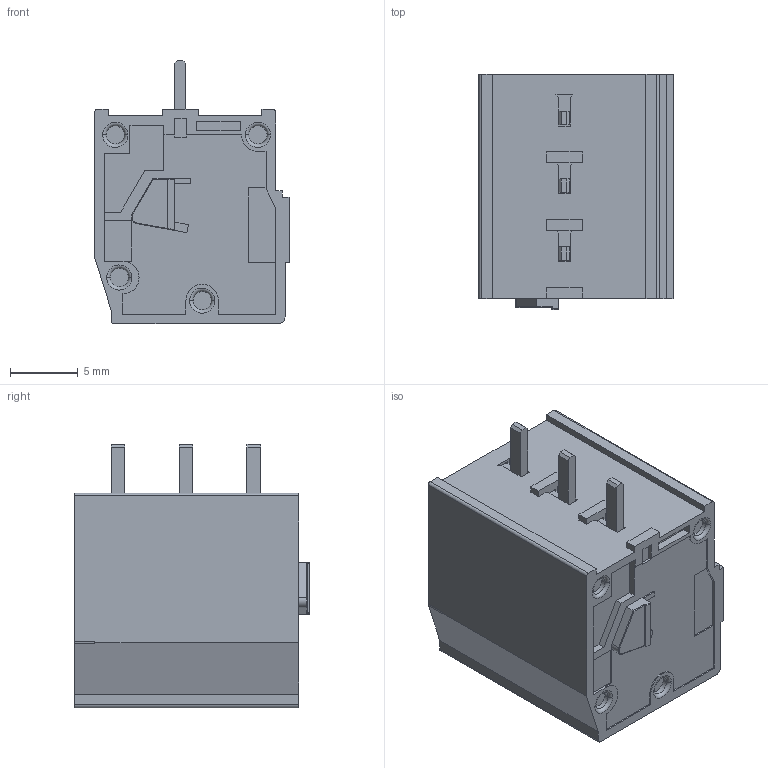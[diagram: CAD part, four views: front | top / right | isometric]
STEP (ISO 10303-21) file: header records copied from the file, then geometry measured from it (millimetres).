
FILE_DESCRIPTION((''),'2;1');
FILE_NAME('3','2019-05-08T',('zhenbing.lai'),(''),'CREO PARAMETRIC BY PTC INC, 2016260','CREO PARAMETRIC BY PTC INC, 2016260','');
FILE_SCHEMA(('CONFIG_CONTROL_DESIGN'));
Length unit declared in the file: millimetre
Products named in the file (1): 3
Bounding box: 14.3 x 17.3 x 19.4 mm (x, y, z)
Volume: 3303.9 mm3; surface area: 1617.8 mm2
Topology: 1 solids, 1 shells, 275 faces, 722 edges, 474 vertices
Faces by surface type: plane 195, cylinder 37, cone 18, torus 17, bspline 8
Entity records: 8687 total; most frequent: CARTESIAN_POINT 1757, ORIENTED_EDGE 1444, DIRECTION 1404, EDGE_CURVE 722, VECTOR 548, LINE 548, VERTEX_POINT 474, AXIS2_PLACEMENT_3D 428
